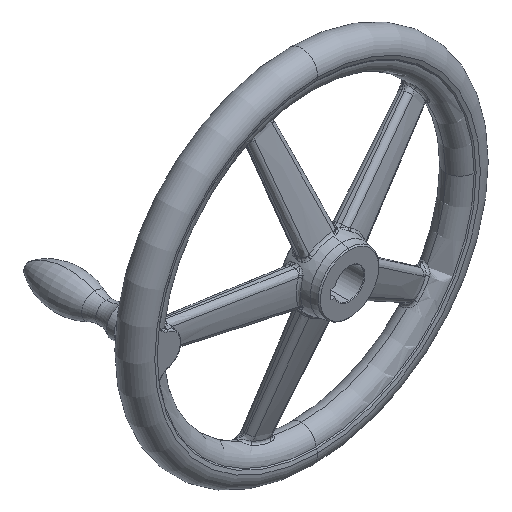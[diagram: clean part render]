
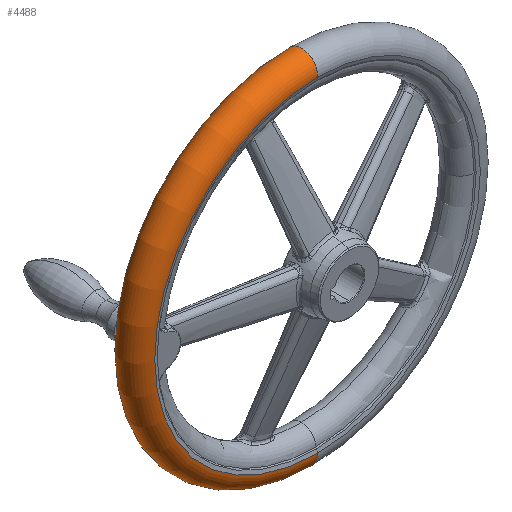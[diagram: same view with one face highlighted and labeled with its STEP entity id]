
A CAD part, isometric view. The second image highlights one B-rep face of the part: STEP entity #4488.
In plain terms, the highlighted toroidal (fillet/blend) face has major radius 143.462 mm and minor radius 14.039 mm.
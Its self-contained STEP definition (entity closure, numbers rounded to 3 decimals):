
#4290 = ORIENTED_EDGE ( 'NONE', *, *, #29729, .T. ) ;
#4297 = ORIENTED_EDGE ( 'NONE', *, *, #5221, .F. ) ;
#4333 = ORIENTED_EDGE ( 'NONE', *, *, #48573, .T. ) ;
#4488 = ADVANCED_FACE ( 'NONE', ( #50609 ), #50599, .T. ) ;
#4497 = ORIENTED_EDGE ( 'NONE', *, *, #28829, .F. ) ;
#4625 = EDGE_LOOP ( 'NONE', ( #4297, #4333, #4290, #4497 ) ) ;
#5221 = EDGE_CURVE ( 'NONE', #48616, #25391, #52580, .T. ) ;
#11752 = CARTESIAN_POINT ( 'NONE',  ( 0., 28., -142.423 ) ) ;
#11809 = CARTESIAN_POINT ( 'NONE',  ( 0., 28., 142.423 ) ) ;
#12135 = DIRECTION ( 'NONE',  ( -1., 0., 0. ) ) ;
#12136 = CARTESIAN_POINT ( 'NONE',  ( 0., 42., -143.462 ) ) ;
#12144 = DIRECTION ( 'NONE',  ( 0., 0., 1. ) ) ;
#12147 = AXIS2_PLACEMENT_3D ( 'NONE', #12136, #12135, #12144 ) ;
#12191 = CIRCLE ( 'NONE', #12147, 14.038 ) ;
#12311 = DIRECTION ( 'NONE',  ( 0., 0., -1. ) ) ;
#12312 = DIRECTION ( 'NONE',  ( 0., -1., 0. ) ) ;
#12313 = CARTESIAN_POINT ( 'NONE',  ( 0., 28., 0. ) ) ;
#12321 = AXIS2_PLACEMENT_3D ( 'NONE', #12313, #12312, #12311 ) ;
#12325 = CIRCLE ( 'NONE', #12321, 142.423 ) ;
#25391 = VERTEX_POINT ( 'NONE', #11809 ) ;
#25473 = VERTEX_POINT ( 'NONE', #11752 ) ;
#28829 = EDGE_CURVE ( 'NONE', #25391, #25473, #12325, .T. ) ;
#29729 = EDGE_CURVE ( 'NONE', #48518, #25473, #12191, .T. ) ;
#41238 = CARTESIAN_POINT ( 'NONE',  ( 0., 56., -142.423 ) ) ;
#41404 = DIRECTION ( 'NONE',  ( 0., 0., -1. ) ) ;
#41405 = DIRECTION ( 'NONE',  ( 0., -1., 0. ) ) ;
#41406 = AXIS2_PLACEMENT_3D ( 'NONE', #41411, #41405, #41404 ) ;
#41407 = CIRCLE ( 'NONE', #41406, 142.423 ) ;
#41411 = CARTESIAN_POINT ( 'NONE',  ( 0., 56., 0. ) ) ;
#41697 = CARTESIAN_POINT ( 'NONE',  ( 0., 56., 142.423 ) ) ;
#48518 = VERTEX_POINT ( 'NONE', #41238 ) ;
#48573 = EDGE_CURVE ( 'NONE', #48616, #48518, #41407, .T. ) ;
#48616 = VERTEX_POINT ( 'NONE', #41697 ) ;
#50599 = TOROIDAL_SURFACE ( 'NONE', #50645, 143.462, 14.038 ) ;
#50605 = DIRECTION ( 'NONE',  ( 0., 0., -1. ) ) ;
#50606 = DIRECTION ( 'NONE',  ( 0., -1., 0. ) ) ;
#50609 = FACE_OUTER_BOUND ( 'NONE', #4625, .T. ) ;
#50640 = CARTESIAN_POINT ( 'NONE',  ( 0., 42., 0. ) ) ;
#50645 = AXIS2_PLACEMENT_3D ( 'NONE', #50640, #50606, #50605 ) ;
#52580 = CIRCLE ( 'NONE', #52629, 14.038 ) ;
#52625 = DIRECTION ( 'NONE',  ( 0., 0., -1. ) ) ;
#52626 = DIRECTION ( 'NONE',  ( 1., 0., 0. ) ) ;
#52628 = CARTESIAN_POINT ( 'NONE',  ( 0., 42., 143.462 ) ) ;
#52629 = AXIS2_PLACEMENT_3D ( 'NONE', #52628, #52626, #52625 ) ;
